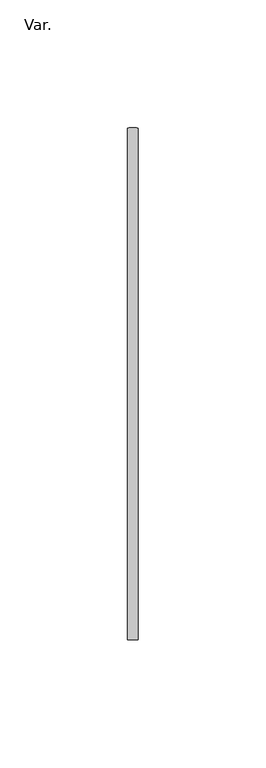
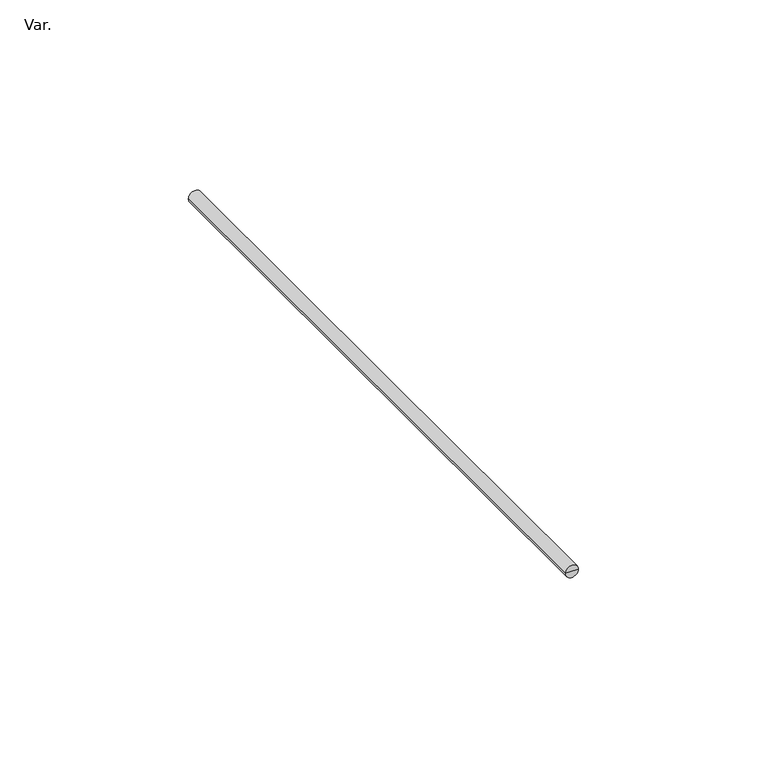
"""IFC4 building model written with IfcOpenShell, lengths in millimetres: pipe fitting geometry, PAVCO_PVC QS Barras Soporte Horizontal : Var.."""

from ifc_helpers import new_model, si_unit, frame, origin, place, context, project, spatial, circle_curve, source, transform, mapped, element, save
from ifc_brep_helpers import plane_surface, cylinder_surface, advanced_brep


def var_c96b33cf(model_context):
    return source(origin(), model_context, "Body", "AdvancedBrep", [
        advanced_brep(
        [(2.0, 200.0, 0.0), (-2.0, 200.0, 0.0), (0.0, 200.0, 0.0), (2.0, 0.0, 0.0), (-2.0, 0.0, 0.0), (0.0, 0.0, 0.0)],
        [
            (0, 1, circle_curve(frame((0.0, 200.0, 0.0), z_axis=(0.0, 1.0, 0.0), x_axis=(-1.0, 0.0, 0.0)), 2.0)),
            (1, 2),
            (2, 0),
            (1, 0, circle_curve(frame((0.0, 200.0, 0.0), z_axis=(0.0, 1.0, 0.0), x_axis=(-1.0, 0.0, 0.0)), 2.0)),
            (3, 4, circle_curve(frame((0.0, 0.0, 0.0), z_axis=(0.0, 1.0, 0.0), x_axis=(-1.0, 0.0, 0.0)), 2.0)),
            (4, 1),
            (0, 3),
            (4, 3, circle_curve(frame((0.0, 0.0, 0.0), z_axis=(0.0, 1.0, 0.0), x_axis=(-1.0, 0.0, 0.0)), 2.0)),
            (5, 4),
            (3, 5),
        ],
        [
            plane_surface(frame((0.0, 200.0, 0.0), z_axis=(0.0, 1.0, 0.0), x_axis=(-1.0, 0.0, 0.0))),
            cylinder_surface(frame((0.0, 0.0, 0.0), z_axis=(0.0, -1.0, 0.0), x_axis=(-1.0, 0.0, 0.0)), 2.0),
            plane_surface(frame((0.0, 0.0, 0.0), z_axis=(0.0, -1.0, 0.0), x_axis=(-1.0, 0.0, 0.0))),
        ],
        [
            (0, [[1, 2, 3]]),
            (0, [[4, -3, -2]]),
            (1, [[5, 6, -1, 7]]),
            (1, [[8, -7, -4, -6]]),
            (2, [[9, -5, 10]]),
            (2, [[-10, -8, -9]]),
        ],
    ),
    ])


if __name__ == "__main__":
    model = new_model("IFC4")
    model_context = context("Model", 3, world=origin())
    ifc_project = project(units=[si_unit("LENGTHUNIT", "METRE", prefix="MILLI")], contexts=[model_context])
    site = spatial("IfcSite", under=ifc_project)
    building = spatial("IfcBuilding", under=site)
    placement = place(None, origin())
    var_shape = var_c96b33cf(model_context)
    element("IfcPipeFitting", 1, ObjectType="PAVCO_PVC QS Barras Soporte Horizontal : Var.", at=placement, inside=building, context=model_context, shape_type="MappedRepresentation", body=[
        mapped(var_shape, transform((0.0, 0.0, 0.0), x_axis=(1.0, 0.0, 0.0), y_axis=(0.0, 1.0, 0.0), z_axis=(0.0, 0.0, 1.0))),
    ])
    save(model, "model.ifc")
